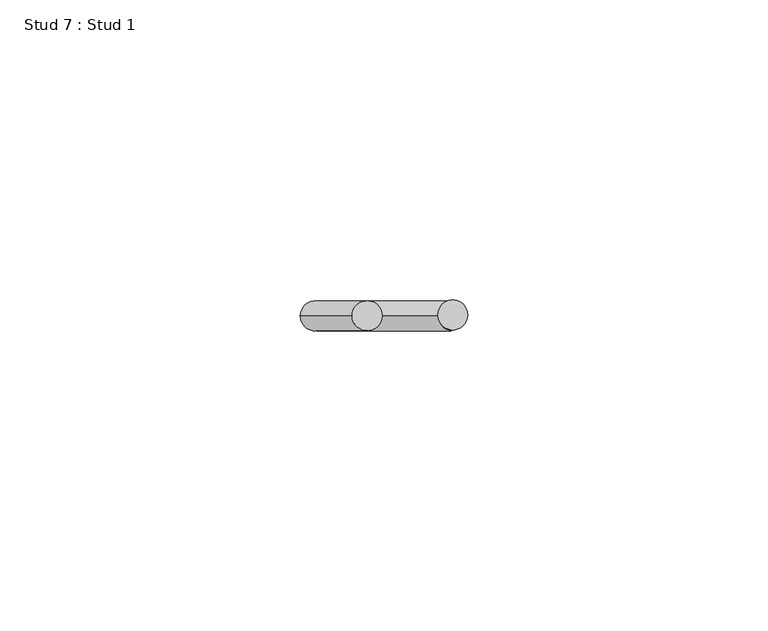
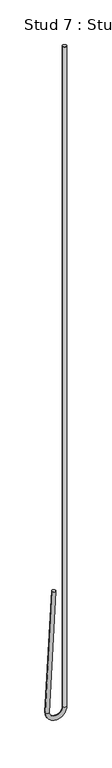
"""IFC4 building model written with IfcOpenShell, lengths in millimetres: proxy geometry, Stud 7 : Stud 1."""

from ifc_helpers import new_model, si_unit, point, frame, origin, place, context, project, spatial, circle_curve, ellipse_curve, trimmed, source, transform, mapped, element, save
from ifc_brep_helpers import plane_surface, cylinder_surface, revolved_surface, advanced_brep


def stud_7_stud_1_3cf8c35f(model_context):
    return source(origin(), model_context, "Body", "AdvancedBrep", [
        advanced_brep(
        [(-10978.2326538, 9596.5191481, 3640.800192), (-10973.2395061, 9596.5191481, 3640.5385122), (-10986.8733201, 9596.5191481, 3475.9264558), (-10981.8801725, 9596.5191481, 3475.664776), (-10963.9714562, 9596.5191481, 3475.7956159), (-10958.9714562, 9596.5191481, 3475.7956159), (-10958.9714562, 9596.5191481, 4390.1956159), (-10963.9714562, 9596.5191481, 4390.1956159)],
        [
            (0, 1, circle_curve(frame((-10975.7360799, 9596.5191481, 3640.6693521), z_axis=(0.05233595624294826, 0.0, 0.9986295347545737), x_axis=(0.9986295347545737, 0.0, -0.05233595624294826)), 2.5)),
            (1, 0, circle_curve(frame((-10975.7360799, 9596.5191481, 3640.6693521), z_axis=(0.05233595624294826, 0.0, 0.9986295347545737), x_axis=(0.9986295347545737, 0.0, -0.05233595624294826)), 2.5)),
            (0, 2),
            (2, 3, circle_curve(frame((-10984.3767463, 9596.5191481, 3475.7956159), z_axis=(0.05233595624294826, 0.0, 0.9986295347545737), x_axis=(0.9986295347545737, 0.0, -0.05233595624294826)), 2.5)),
            (3, 1),
            (3, 2, circle_curve(frame((-10984.3767463, 9596.5191481, 3475.7956159), z_axis=(0.05233595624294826, 0.0, 0.9986295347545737), x_axis=(0.9986295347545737, 0.0, -0.05233595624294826)), 2.5)),
            (4, 3, circle_curve(frame((-10972.9241013, 9596.5191481, 3475.7956159), z_axis=(0.0, 1.0, 0.0), x_axis=(-1.0, 0.0, 0.0)), 8.952645)),
            (2, 5, circle_curve(frame((-10972.9241013, 9596.5191481, 3475.7956159), z_axis=(0.0, -1.0, 0.0), x_axis=(-1.0, 0.0, 0.0)), 13.952645)),
            (5, 4, circle_curve(frame((-10961.4714562, 9596.5191481, 3475.7956159), z_axis=(0.0, 0.0, -1.0), x_axis=(-1.0, 0.0, 0.0)), 2.5)),
            (4, 5, circle_curve(frame((-10961.4714562, 9596.5191481, 3475.7956159), z_axis=(0.0, 0.0, -1.0), x_axis=(-1.0, 0.0, 0.0)), 2.5)),
            (6, 7, circle_curve(frame((-10961.4714562, 9596.5191481, 4390.1956159), z_axis=(0.0, 0.0, 1.0), x_axis=(-1.0, 0.0, 0.0)), 2.5)),
            (7, 6, circle_curve(frame((-10961.4714562, 9596.5191481, 4390.1956159), z_axis=(0.0, 0.0, 1.0), x_axis=(-1.0, 0.0, 0.0)), 2.5)),
            (5, 6),
            (7, 4),
        ],
        [
            plane_surface(frame((-10975.7360799, 10190.2441481, 3640.6693521), z_axis=(0.05233595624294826, 0.0, 0.9986295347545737), x_axis=(0.0, -1.0, 0.0))),
            cylinder_surface(frame((-10975.7360799, 9596.5191481, 3640.6693521), z_axis=(0.05233595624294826, 0.0, 0.9986295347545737), x_axis=(0.9986295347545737, 0.0, -0.05233595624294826)), 2.5),
            revolved_surface(trimmed(ellipse_curve(frame((-10984.3767463, 9596.5191481, 3475.7956159), z_axis=(0.0, 0.0, 1.0), x_axis=(1.0, 0.0, 0.0)), 2.5, 2.5), [point((-10986.8767463, 9596.5191481, 3475.7956159))], [point((-10981.8767463, 9596.5191481, 3475.7956159))], True, "CARTESIAN"), (-10972.9241013, 10190.2441481, 3475.7956159), (0.0, -1.0, 0.0)),
            revolved_surface(trimmed(ellipse_curve(frame((-10984.3767463, 9596.5191481, 3475.7956159), z_axis=(0.0, 0.0, 1.0), x_axis=(1.0, 0.0, 0.0)), 2.5, 2.5), [point((-10981.8767463, 9596.5191481, 3475.7956159))], [point((-10986.8767463, 9596.5191481, 3475.7956159))], True, "CARTESIAN"), (-10972.9241013, 10190.2441481, 3475.7956159), (0.0, -1.0, 0.0)),
            plane_surface(frame((-10961.4714562, 10190.2441481, 4390.1956159), z_axis=(0.0, 0.0, 1.0), x_axis=(0.0, -1.0, 0.0))),
            cylinder_surface(frame((-10961.4714562, 9596.5191481, 3475.7956159), z_axis=(0.0, 0.0, -1.0), x_axis=(-1.0, 0.0, 0.0)), 2.5),
        ],
        [
            (0, [[1, 2]]),
            (1, [[-1, 3, 4, 5]]),
            (1, [[-2, -5, 6, -3]]),
            (2, [[7, -4, 8, 9]]),
            (3, [[-8, -6, -7, 10]]),
            (4, [[11, 12]]),
            (5, [[-9, 13, -12, 14]]),
            (5, [[-10, -14, -11, -13]]),
        ],
    ),
    ])


if __name__ == "__main__":
    model = new_model("IFC4")
    model_context = context("Model", 3, world=origin())
    ifc_project = project(units=[si_unit("LENGTHUNIT", "METRE", prefix="MILLI")], contexts=[model_context])
    site = spatial("IfcSite", under=ifc_project)
    building = spatial("IfcBuilding", under=site)
    placement = place(None, origin())
    stud_7_stud_1_shape = stud_7_stud_1_3cf8c35f(model_context)
    element("IfcBuildingElementProxy", 1, Name="Stud 7 : Stud 1", ObjectType="Stud 7 : Stud 1", at=placement, inside=building, context=model_context, shape_type="MappedRepresentation", body=[
        mapped(stud_7_stud_1_shape, transform((0.0, 0.0, 0.0), x_axis=(1.0, 0.0, 0.0), y_axis=(0.0, 1.0, 0.0), z_axis=(0.0, 0.0, 1.0))),
    ])
    save(model, "model.ifc")
